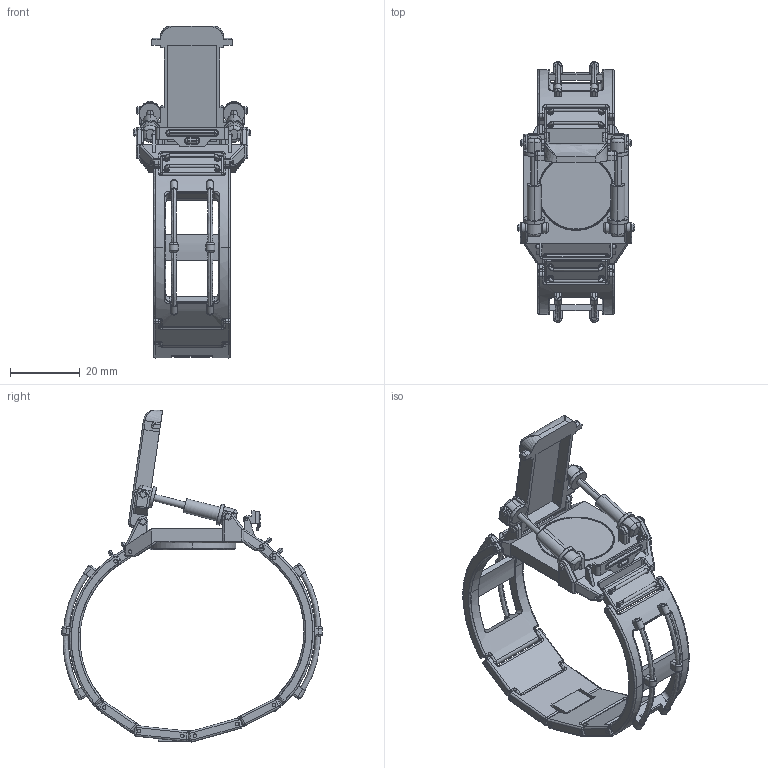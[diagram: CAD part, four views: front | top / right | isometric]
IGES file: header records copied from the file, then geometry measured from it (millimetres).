
Start section: C
Global section: file name: time machine.igs; native system:  By UGS Corp.; preprocessor: XPlus GENERIC/IGES 3.0; author: Author; organization: Title; date: 20130324.203114; units: millimetre
Bounding box: 33.5 x 74.6 x 94.98 mm (x, y, z)
Surface area: 19379.3 mm2 (no closed solid volume)
Topology: 0 solids, 0 shells, 1540 faces, 7247 edges, 7144 vertices
Faces by surface type: bspline 1540
